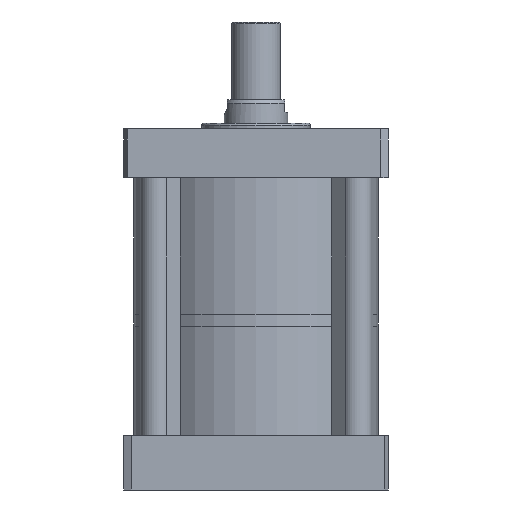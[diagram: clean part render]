
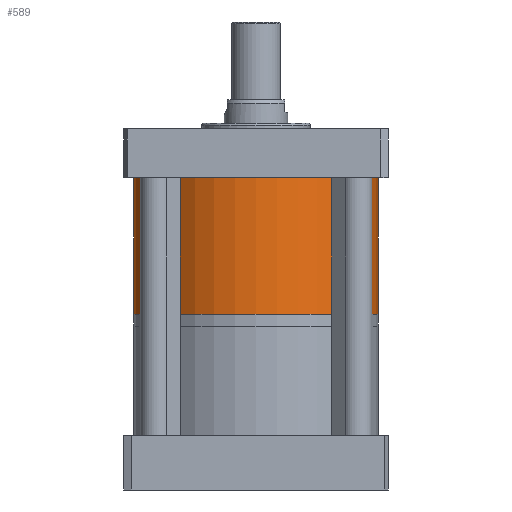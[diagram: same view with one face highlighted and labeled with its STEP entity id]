
A CAD part, front view. The second image highlights one B-rep face of the part: STEP entity #589.
In plain terms, the highlighted cylindrical face has radius 67.5 mm (diameter 135 mm), a partial arc.
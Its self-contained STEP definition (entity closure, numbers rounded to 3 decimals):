
#446 = DIRECTION ( 'NONE',  ( 0., 0., 1. ) ) ;
#473 = CARTESIAN_POINT ( 'NONE',  ( -67.5, 0., 0. ) ) ;
#589 = ADVANCED_FACE ( 'NONE', ( #2699 ), #4014, .T. ) ;
#1325 = DIRECTION ( 'NONE',  ( 1., 0., 0. ) ) ;
#1412 = VERTEX_POINT ( 'NONE', #3696 ) ;
#1496 = CARTESIAN_POINT ( 'NONE',  ( 0., 0., -75.5 ) ) ;
#1734 = EDGE_CURVE ( 'NONE', #6904, #5459, #3184, .T. ) ;
#1897 = EDGE_CURVE ( 'NONE', #2558, #6904, #3397, .T. ) ;
#2179 = CARTESIAN_POINT ( 'NONE',  ( 67.5, 0., -75.5 ) ) ;
#2186 = EDGE_LOOP ( 'NONE', ( #8331, #6245, #5809, #5762 ) ) ;
#2502 = AXIS2_PLACEMENT_3D ( 'NONE', #6729, #2848, #7367 ) ;
#2523 = AXIS2_PLACEMENT_3D ( 'NONE', #1496, #5180, #1325 ) ;
#2552 = CARTESIAN_POINT ( 'NONE',  ( 0., 0., -75.5 ) ) ;
#2558 = VERTEX_POINT ( 'NONE', #6715 ) ;
#2699 = FACE_OUTER_BOUND ( 'NONE', #2186, .T. ) ;
#2819 = DIRECTION ( 'NONE',  ( 0., 0., 1. ) ) ;
#2848 = DIRECTION ( 'NONE',  ( 0., 0., -1. ) ) ;
#3184 = LINE ( 'NONE', #5604, #4906 ) ;
#3205 = DIRECTION ( 'NONE',  ( -1., 0., 0. ) ) ;
#3397 = CIRCLE ( 'NONE', #3864, 67.5 ) ;
#3696 = CARTESIAN_POINT ( 'NONE',  ( 67.5, 0., 0. ) ) ;
#3829 = CARTESIAN_POINT ( 'NONE',  ( -67.5, 0., -75.5 ) ) ;
#3864 = AXIS2_PLACEMENT_3D ( 'NONE', #2552, #7070, #3205 ) ;
#4014 = CYLINDRICAL_SURFACE ( 'NONE', #2523, 67.5 ) ;
#4684 = LINE ( 'NONE', #2179, #8111 ) ;
#4906 = VECTOR ( 'NONE', #446, 1000. ) ;
#4930 = EDGE_CURVE ( 'NONE', #2558, #1412, #4684, .T. ) ;
#5180 = DIRECTION ( 'NONE',  ( 0., 0., 1. ) ) ;
#5459 = VERTEX_POINT ( 'NONE', #473 ) ;
#5604 = CARTESIAN_POINT ( 'NONE',  ( -67.5, 0., -75.5 ) ) ;
#5762 = ORIENTED_EDGE ( 'NONE', *, *, #5844, .T. ) ;
#5809 = ORIENTED_EDGE ( 'NONE', *, *, #4930, .T. ) ;
#5844 = EDGE_CURVE ( 'NONE', #1412, #5459, #8093, .T. ) ;
#6245 = ORIENTED_EDGE ( 'NONE', *, *, #1897, .F. ) ;
#6715 = CARTESIAN_POINT ( 'NONE',  ( 67.5, 0., -75.5 ) ) ;
#6729 = CARTESIAN_POINT ( 'NONE',  ( 0., 0., 0. ) ) ;
#6904 = VERTEX_POINT ( 'NONE', #3829 ) ;
#7070 = DIRECTION ( 'NONE',  ( 0., 0., -1. ) ) ;
#7367 = DIRECTION ( 'NONE',  ( 1., 0., 0. ) ) ;
#8093 = CIRCLE ( 'NONE', #2502, 67.5 ) ;
#8111 = VECTOR ( 'NONE', #2819, 1000. ) ;
#8331 = ORIENTED_EDGE ( 'NONE', *, *, #1734, .F. ) ;
